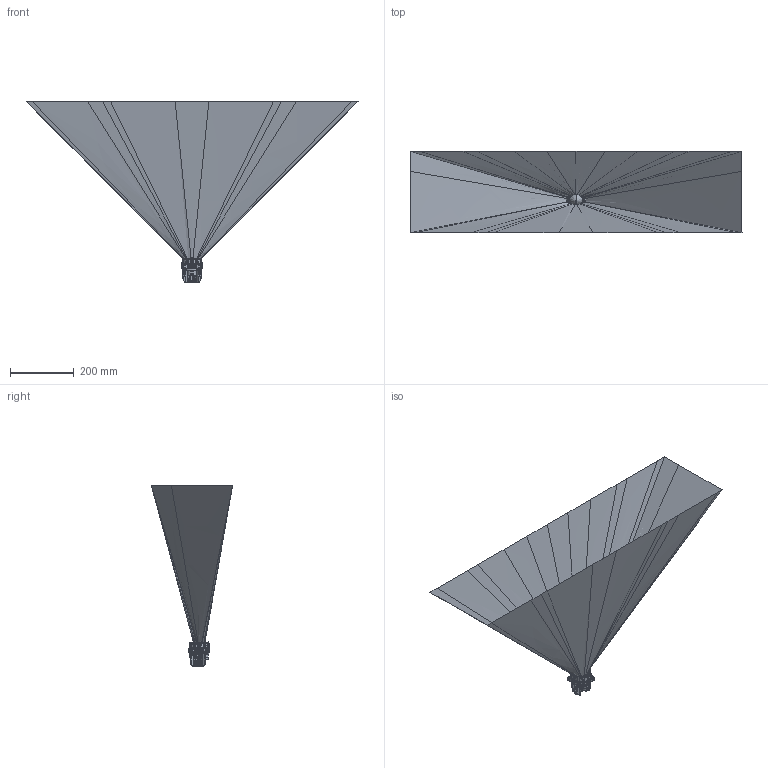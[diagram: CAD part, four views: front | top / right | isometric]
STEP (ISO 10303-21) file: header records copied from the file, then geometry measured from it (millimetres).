
FILE_DESCRIPTION(('CATIA V5 STEP Exchange','CAx-IF Rec.Pracs.--- Model Styling and Organization---1.5--- 2016-08-15','CAx-IF Rec.Pracs.---Supplemental Geometry---1.0---2011-11-01','CAx-IF Rec.Pracs.--- Composite Materials ---1.1---2010-07-15'),'2;1');
FILE_NAME('E:\tmp\ddx\2011204\3D_data_Module_60_LED_low_beam_without_frame_1TL 998 670-02.stp','2022-01-18T07:27:09+00:00',('none'),('none'),'CATIA Version 5-6 Release 2020 SP3 HF9','CATIA V5 STEP AP214 Edition 3 v2','none');
FILE_SCHEMA(('AUTOMOTIVE_DESIGN { 1 0 10303 214 3 1 1 1 }'));
Products named in the file (1): 10001942593_D10_001
Bounding box: 1043.13 x 255.04 x 566.75 mm (x, y, z)
Volume: 133443.1 mm3; surface area: 801877.1 mm2
Topology: 1 solids, 2 shells, 5053 faces, 12632 edges, 7287 vertices
Faces by surface type: bspline 1743, plane 981, extrusion 667, torus 537, cylinder 522, cone 350, sphere 239, revolution 14
Entity records: 253624 total; most frequent: CARTESIAN_POINT 157809, ORIENTED_EDGE 24476, EDGE_CURVE 12265, DIRECTION 9720, B_SPLINE_CURVE_WITH_KNOTS 7929, VERTEX_POINT 7287, EDGE_LOOP 5164, ADVANCED_FACE 5053
